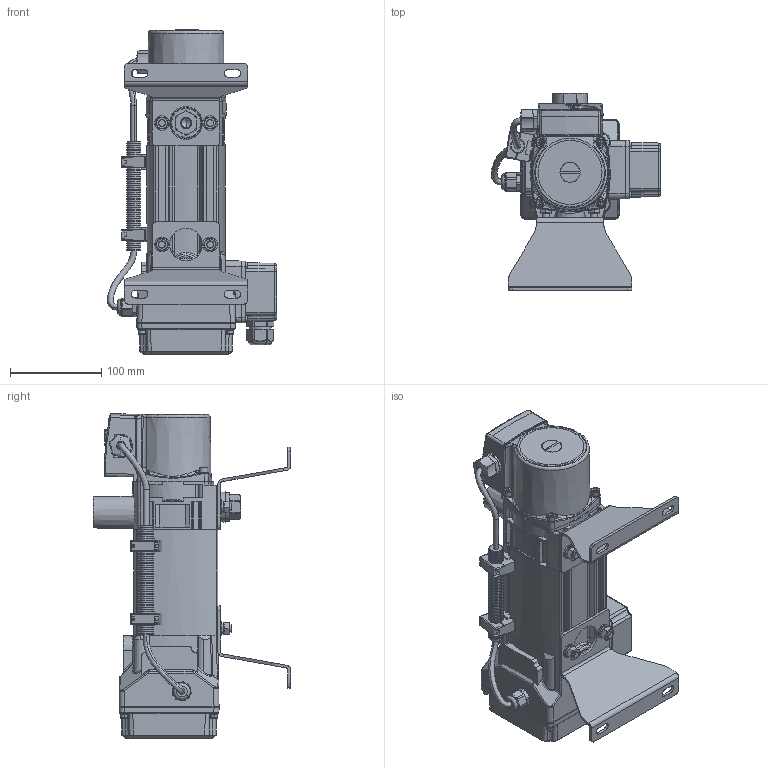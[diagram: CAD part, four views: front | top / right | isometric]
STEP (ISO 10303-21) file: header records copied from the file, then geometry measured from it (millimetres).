
FILE_DESCRIPTION((''),'2;1');
FILE_NAME('FL-HWP40N_1','2024-01-19T15:11:26',('Administrator'),(''),'CREO PARAMETRIC BY PTC INC, 2019010','CREO PARAMETRIC BY PTC INC, 2019010','');
FILE_SCHEMA(('AUTOMOTIVE_DESIGN { 1 0 10303 214 1 1 1 1 }'));
Products named in the file (1): FL-HWP40N_1
Bounding box: 185.91 x 216.65 x 356.74 mm (x, y, z)
Volume: 3262149.2 mm3; surface area: 288803.4 mm2
Topology: 1 solids, 5 shells, 2320 faces, 6125 edges, 3876 vertices
Faces by surface type: plane 1006, cylinder 739, bspline 286, cone 190, torus 72, sphere 21, extrusion 4, revolution 2
Entity records: 107483 total; most frequent: CARTESIAN_POINT 35844, ORIENTED_EDGE 12144, DIRECTION 10652, EDGE_CURVE 6073, AXIS2_PLACEMENT_3D 3995, VERTEX_POINT 3876, VECTOR 2660, LINE 2656
